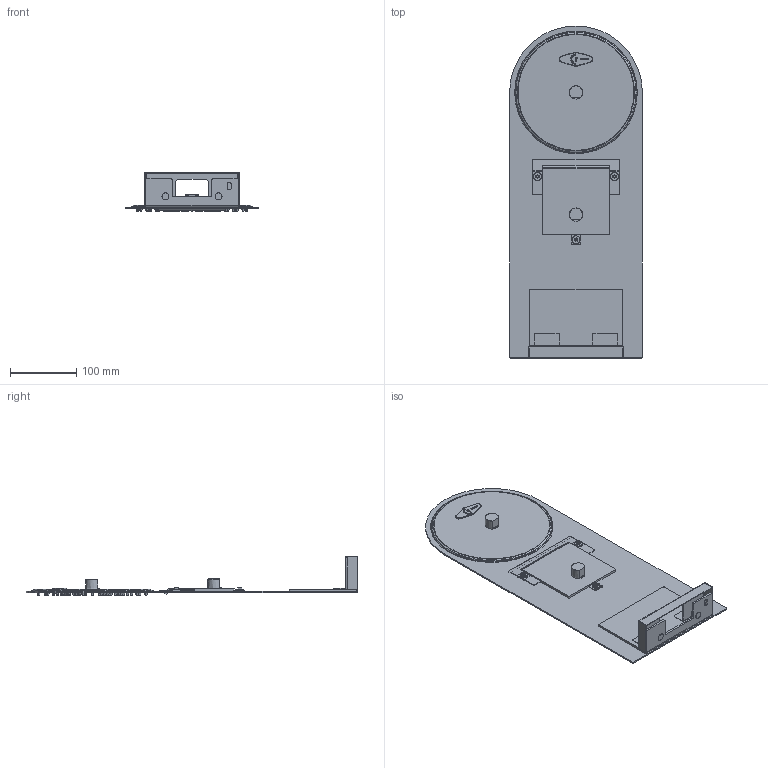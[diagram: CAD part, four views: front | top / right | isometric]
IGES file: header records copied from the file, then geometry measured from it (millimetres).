
Start section:  PTC IGES file: 90617.igs
Global section: file name: 90617.igs; native system: Creo Parametric by PTC Inc.; preprocessor: 2018100; author: carloff; organization: Unknown; date: 20210407.094922; units: millimetre
Bounding box: 200 x 500 x 59.8 mm (x, y, z)
Surface area: 260142.8 mm2 (no closed solid volume)
Topology: 0 solids, 0 shells, 1401 faces, 6598 edges, 6598 vertices
Faces by surface type: revolution 786, bspline 446, extrusion 169
